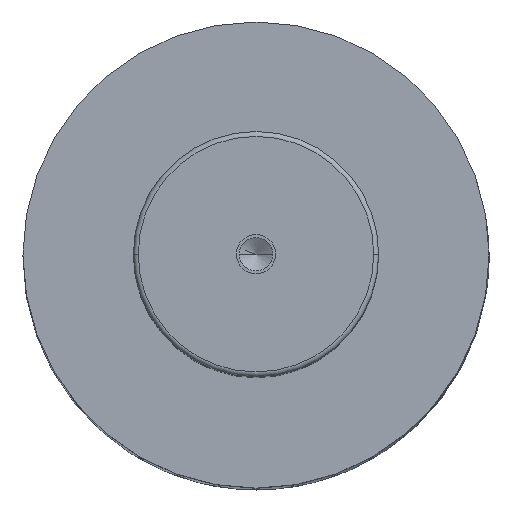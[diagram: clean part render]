
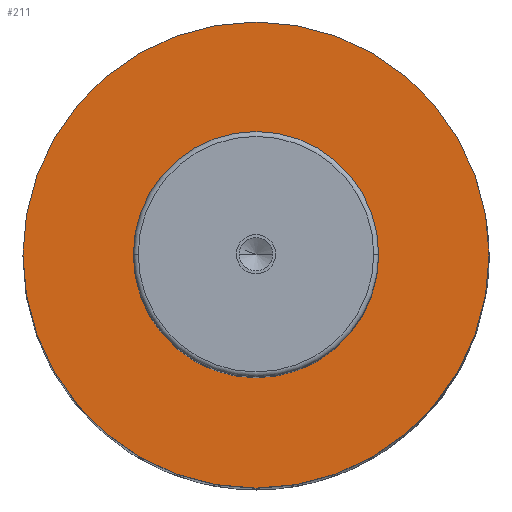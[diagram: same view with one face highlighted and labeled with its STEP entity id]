
A CAD part, top view. The second image highlights one B-rep face of the part: STEP entity #211.
In plain terms, the highlighted planar face has unit normal (0, 0, 1).
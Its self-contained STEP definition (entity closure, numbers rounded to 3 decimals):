
#109=PLANE('',#1266);
#138=FACE_BOUND('',#359,.T.);
#139=FACE_BOUND('',#360,.T.);
#211=ADVANCED_FACE('',(#138,#139),#109,.T.);
#359=EDGE_LOOP('',(#571,#572));
#360=EDGE_LOOP('',(#573,#574));
#451=CIRCLE('',#1260,25.);
#452=CIRCLE('',#1262,25.);
#453=CIRCLE('',#1264,47.5);
#454=CIRCLE('',#1265,47.5);
#571=ORIENTED_EDGE('',*,*,#970,.F.);
#572=ORIENTED_EDGE('',*,*,#971,.F.);
#573=ORIENTED_EDGE('',*,*,#969,.T.);
#574=ORIENTED_EDGE('',*,*,#967,.T.);
#856=VERTEX_POINT('',#1837);
#857=VERTEX_POINT('',#1839);
#858=VERTEX_POINT('',#1845);
#859=VERTEX_POINT('',#1846);
#967=EDGE_CURVE('',#857,#856,#451,.T.);
#969=EDGE_CURVE('',#856,#857,#452,.T.);
#970=EDGE_CURVE('',#858,#859,#453,.T.);
#971=EDGE_CURVE('',#859,#858,#454,.T.);
#1260=AXIS2_PLACEMENT_3D('',#1838,#1456,#1457);
#1262=AXIS2_PLACEMENT_3D('',#1842,#1461,#1462);
#1264=AXIS2_PLACEMENT_3D('',#1844,#1465,#1466);
#1265=AXIS2_PLACEMENT_3D('',#1847,#1467,#1468);
#1266=AXIS2_PLACEMENT_3D('',#1848,#1469,#1470);
#1456=DIRECTION('',(0.,0.,-1.));
#1457=DIRECTION('',(0.,1.,0.));
#1461=DIRECTION('',(0.,0.,-1.));
#1462=DIRECTION('',(0.,-1.,0.));
#1465=DIRECTION('',(0.,0.,-1.));
#1466=DIRECTION('',(0.,1.,0.));
#1467=DIRECTION('',(0.,0.,-1.));
#1468=DIRECTION('',(0.,-1.,0.));
#1469=DIRECTION('',(0.,0.,1.));
#1470=DIRECTION('',(0.,-1.,0.));
#1837=CARTESIAN_POINT('',(-25.,0.,217.));
#1838=CARTESIAN_POINT('',(0.,0.,217.));
#1839=CARTESIAN_POINT('',(25.,0.,217.));
#1842=CARTESIAN_POINT('',(0.,0.,217.));
#1844=CARTESIAN_POINT('',(0.,0.,217.));
#1845=CARTESIAN_POINT('',(47.5,0.,217.));
#1846=CARTESIAN_POINT('',(-47.5,0.,217.));
#1847=CARTESIAN_POINT('',(0.,0.,217.));
#1848=CARTESIAN_POINT('',(0.,0.,217.));
